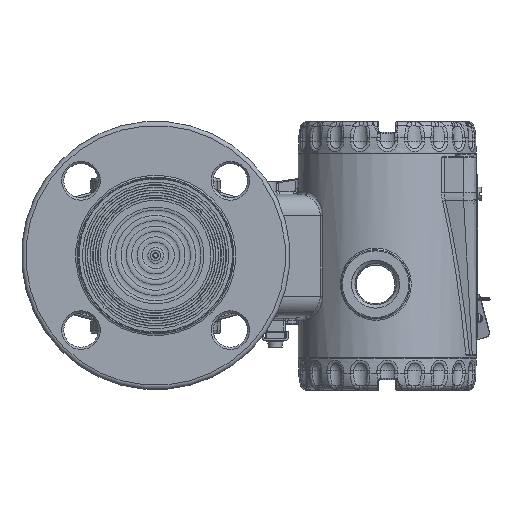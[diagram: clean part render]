
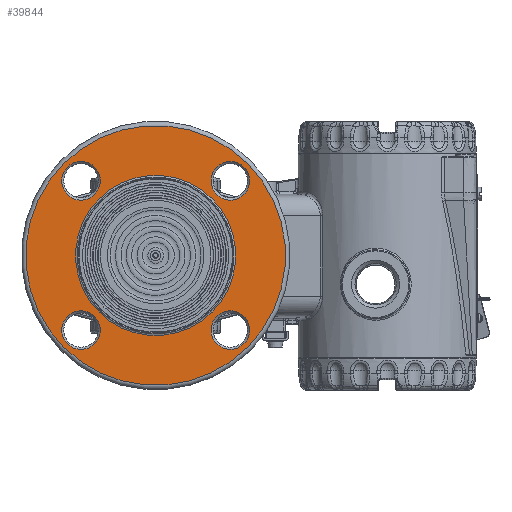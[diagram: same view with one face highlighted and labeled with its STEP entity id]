
A CAD part, top view. The second image highlights one B-rep face of the part: STEP entity #39844.
In plain terms, the highlighted planar face has unit normal (0, 0, 1) as drawn and (-1, 0, 0) by its records, which use the part's own axes.
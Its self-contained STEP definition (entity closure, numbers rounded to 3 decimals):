
#665=FACE_BOUND('',#6591,.T.);
#666=FACE_BOUND('',#6592,.T.);
#667=FACE_BOUND('',#6593,.T.);
#668=FACE_BOUND('',#6594,.T.);
#669=FACE_BOUND('',#6595,.T.);
#2566=PLANE('',#44278);
#3936=FACE_OUTER_BOUND('',#6590,.T.);
#6590=EDGE_LOOP('',(#30472,#30473));
#6591=EDGE_LOOP('',(#30474));
#6592=EDGE_LOOP('',(#30475));
#6593=EDGE_LOOP('',(#30476,#30477));
#6594=EDGE_LOOP('',(#30478));
#6595=EDGE_LOOP('',(#30479));
#13156=CIRCLE('',#44277,9.);
#13157=CIRCLE('',#44279,60.5);
#13158=CIRCLE('',#44280,60.5);
#13159=CIRCLE('',#44281,9.);
#13160=CIRCLE('',#44282,9.);
#13161=CIRCLE('',#44283,37.3);
#13162=CIRCLE('',#44284,37.3);
#13163=CIRCLE('',#44285,9.);
#17467=VERTEX_POINT('',#70479);
#17468=VERTEX_POINT('',#70483);
#17469=VERTEX_POINT('',#70484);
#17470=VERTEX_POINT('',#70487);
#17471=VERTEX_POINT('',#70489);
#17472=VERTEX_POINT('',#70491);
#17473=VERTEX_POINT('',#70492);
#17474=VERTEX_POINT('',#70495);
#22074=EDGE_CURVE('',#17467,#17467,#13156,.T.);
#22076=EDGE_CURVE('',#17468,#17469,#13157,.T.);
#22077=EDGE_CURVE('',#17469,#17468,#13158,.T.);
#22078=EDGE_CURVE('',#17470,#17470,#13159,.T.);
#22079=EDGE_CURVE('',#17471,#17471,#13160,.T.);
#22080=EDGE_CURVE('',#17472,#17473,#13161,.T.);
#22081=EDGE_CURVE('',#17473,#17472,#13162,.T.);
#22082=EDGE_CURVE('',#17474,#17474,#13163,.T.);
#30472=ORIENTED_EDGE('',*,*,#22076,.F.);
#30473=ORIENTED_EDGE('',*,*,#22077,.F.);
#30474=ORIENTED_EDGE('',*,*,#22078,.F.);
#30475=ORIENTED_EDGE('',*,*,#22079,.F.);
#30476=ORIENTED_EDGE('',*,*,#22080,.T.);
#30477=ORIENTED_EDGE('',*,*,#22081,.T.);
#30478=ORIENTED_EDGE('',*,*,#22082,.F.);
#30479=ORIENTED_EDGE('',*,*,#22074,.F.);
#39844=ADVANCED_FACE('',(#3936,#665,#666,#667,#668,#669),#2566,.T.);
#44277=AXIS2_PLACEMENT_3D('',#70480,#52156,#52157);
#44278=AXIS2_PLACEMENT_3D('',#70482,#52159,#52160);
#44279=AXIS2_PLACEMENT_3D('',#70485,#52161,#52162);
#44280=AXIS2_PLACEMENT_3D('',#70486,#52163,#52164);
#44281=AXIS2_PLACEMENT_3D('',#70488,#52165,#52166);
#44282=AXIS2_PLACEMENT_3D('',#70490,#52167,#52168);
#44283=AXIS2_PLACEMENT_3D('',#70493,#52169,#52170);
#44284=AXIS2_PLACEMENT_3D('',#70494,#52171,#52172);
#44285=AXIS2_PLACEMENT_3D('',#70496,#52173,#52174);
#52156=DIRECTION('center_axis',(-1.,0.,0.));
#52157=DIRECTION('ref_axis',(0.,-1.,0.));
#52159=DIRECTION('center_axis',(-1.,0.,0.));
#52160=DIRECTION('ref_axis',(0.,0.,1.));
#52161=DIRECTION('center_axis',(1.,0.,0.));
#52162=DIRECTION('ref_axis',(0.,1.,0.));
#52163=DIRECTION('center_axis',(1.,0.,0.));
#52164=DIRECTION('ref_axis',(0.,1.,0.));
#52165=DIRECTION('center_axis',(-1.,0.,0.));
#52166=DIRECTION('ref_axis',(0.,0.,1.));
#52167=DIRECTION('center_axis',(-1.,0.,0.));
#52168=DIRECTION('ref_axis',(0.,0.,-1.));
#52169=DIRECTION('center_axis',(1.,0.,0.));
#52170=DIRECTION('ref_axis',(0.,1.,0.));
#52171=DIRECTION('center_axis',(1.,0.,0.));
#52172=DIRECTION('ref_axis',(0.,1.,0.));
#52173=DIRECTION('center_axis',(-1.,0.,0.));
#52174=DIRECTION('ref_axis',(0.,1.,0.));
#70479=CARTESIAN_POINT('',(2.,58.2,0.));
#70480=CARTESIAN_POINT('Origin',(2.,49.2,0.));
#70482=CARTESIAN_POINT('Origin',(2.,48.9,0.));
#70483=CARTESIAN_POINT('',(2.,60.5,0.));
#70484=CARTESIAN_POINT('',(2.,0.,60.5));
#70485=CARTESIAN_POINT('Origin',(2.,0.,0.));
#70486=CARTESIAN_POINT('Origin',(2.,0.,0.));
#70487=CARTESIAN_POINT('',(2.,0.,-58.2));
#70488=CARTESIAN_POINT('Origin',(2.,0.,-49.2));
#70489=CARTESIAN_POINT('',(2.,0.,58.2));
#70490=CARTESIAN_POINT('Origin',(2.,0.,49.2));
#70491=CARTESIAN_POINT('',(2.,37.3,0.));
#70492=CARTESIAN_POINT('',(2.,0.,37.3));
#70493=CARTESIAN_POINT('Origin',(2.,0.,0.));
#70494=CARTESIAN_POINT('Origin',(2.,0.,0.));
#70495=CARTESIAN_POINT('',(2.,-58.2,0.));
#70496=CARTESIAN_POINT('Origin',(2.,-49.2,0.));
